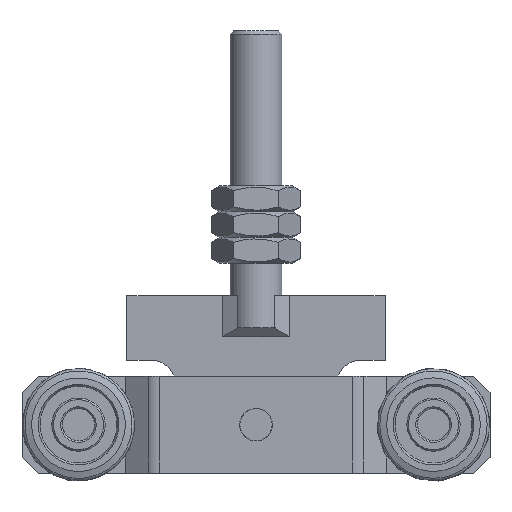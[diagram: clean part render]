
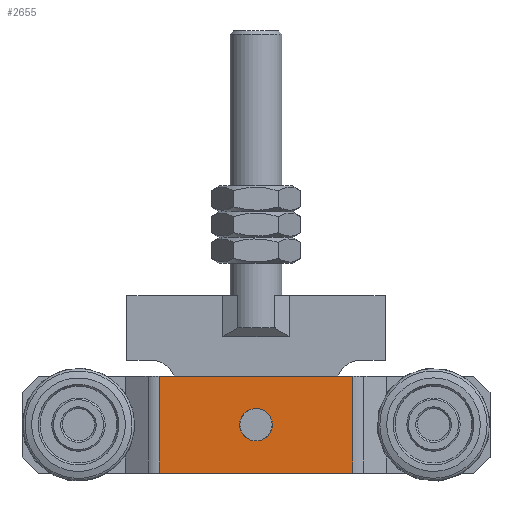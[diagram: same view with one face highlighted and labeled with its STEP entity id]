
A CAD part, top view. The second image highlights one B-rep face of the part: STEP entity #2655.
In plain terms, the highlighted planar face has unit normal (0, 0, 1).
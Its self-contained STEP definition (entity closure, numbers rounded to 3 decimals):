
#127=FACE_BOUND('',#556,.T.);
#256=PLANE('',#2861);
#379=FACE_OUTER_BOUND('',#555,.T.);
#555=EDGE_LOOP('',(#2054,#2055,#2056,#2057));
#556=EDGE_LOOP('',(#2058));
#795=LINE('',#4116,#1017);
#801=LINE('',#4130,#1023);
#802=LINE('',#4132,#1024);
#803=LINE('',#4133,#1025);
#1017=VECTOR('',#3279,30.);
#1023=VECTOR('',#3293,60.);
#1024=VECTOR('',#3294,30.);
#1025=VECTOR('',#3295,60.);
#1193=CIRCLE('',#2862,5.05);
#1329=VERTEX_POINT('',#4098);
#1332=VERTEX_POINT('',#4106);
#1339=VERTEX_POINT('',#4129);
#1340=VERTEX_POINT('',#4131);
#1341=VERTEX_POINT('',#4134);
#1603=EDGE_CURVE('',#1332,#1329,#795,.T.);
#1610=EDGE_CURVE('',#1339,#1329,#801,.T.);
#1611=EDGE_CURVE('',#1339,#1340,#802,.T.);
#1612=EDGE_CURVE('',#1332,#1340,#803,.T.);
#1613=EDGE_CURVE('',#1341,#1341,#1193,.T.);
#2054=ORIENTED_EDGE('',*,*,#1603,.T.);
#2055=ORIENTED_EDGE('',*,*,#1610,.F.);
#2056=ORIENTED_EDGE('',*,*,#1611,.T.);
#2057=ORIENTED_EDGE('',*,*,#1612,.F.);
#2058=ORIENTED_EDGE('',*,*,#1613,.T.);
#2655=ADVANCED_FACE('',(#379,#127),#256,.T.);
#2861=AXIS2_PLACEMENT_3D('',#4128,#3291,#3292);
#2862=AXIS2_PLACEMENT_3D('',#4135,#3296,#3297);
#3279=DIRECTION('',(0.,1.,0.));
#3291=DIRECTION('center_axis',(0.,0.,1.));
#3292=DIRECTION('ref_axis',(1.,0.,0.));
#3293=DIRECTION('',(1.,0.,0.));
#3294=DIRECTION('',(0.,-1.,0.));
#3295=DIRECTION('',(-1.,0.,0.));
#3296=DIRECTION('center_axis',(0.,0.,-1.));
#3297=DIRECTION('ref_axis',(-1.,0.,0.));
#4098=CARTESIAN_POINT('',(30.,15.,6.));
#4106=CARTESIAN_POINT('',(30.,-15.,6.));
#4116=CARTESIAN_POINT('',(30.,-7.5,6.));
#4128=CARTESIAN_POINT('Origin',(0.,0.,
6.));
#4129=CARTESIAN_POINT('',(-30.,15.,6.));
#4130=CARTESIAN_POINT('',(68.5,15.,6.));
#4131=CARTESIAN_POINT('',(-30.,-15.,6.));
#4132=CARTESIAN_POINT('',(-30.,7.5,6.));
#4133=CARTESIAN_POINT('',(-68.5,-15.,6.));
#4134=CARTESIAN_POINT('',(5.05,0.,6.));
#4135=CARTESIAN_POINT('Origin',(0.,0.,6.));
